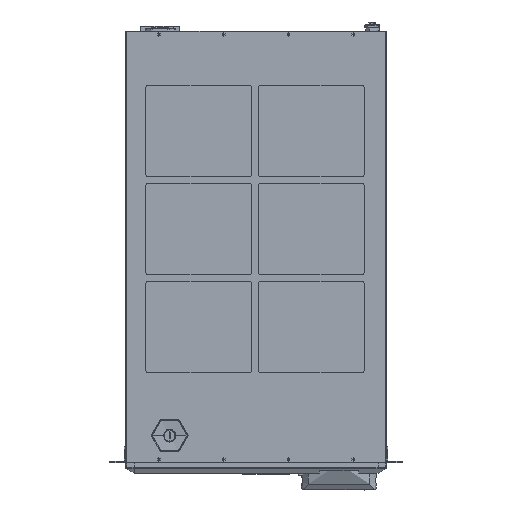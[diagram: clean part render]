
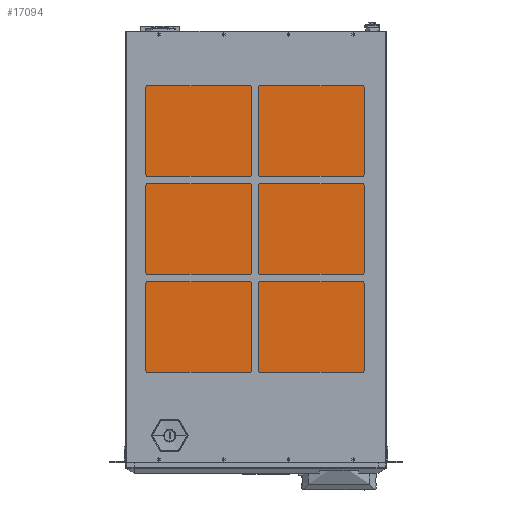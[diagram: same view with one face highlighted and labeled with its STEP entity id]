
A CAD part, top view. The second image highlights one B-rep face of the part: STEP entity #17094.
In plain terms, the highlighted free-form (B-spline) face has degree [1, 1] with [2, 2] control points.
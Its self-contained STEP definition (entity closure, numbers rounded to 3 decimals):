
#17094=ADVANCED_FACE('',(#21599),#158934,.T.);
#21599=FACE_OUTER_BOUND('',#26104,.T.);
#26104=EDGE_LOOP('',(#31851,#31852,#31853,#31854));
#31851=ORIENTED_EDGE('',*,*,#112155,.F.);
#31852=ORIENTED_EDGE('',*,*,#112152,.F.);
#31853=ORIENTED_EDGE('',*,*,#112149,.F.);
#31854=ORIENTED_EDGE('',*,*,#112145,.F.);
#54780=PCURVE('',#158930,#77725);
#54784=PCURVE('',#158931,#77729);
#54788=PCURVE('',#158932,#77733);
#54792=PCURVE('',#158933,#77737);
#54796=PCURVE('',#158934,#77741);
#54797=PCURVE('',#158934,#77742);
#54798=PCURVE('',#158934,#77743);
#54799=PCURVE('',#158934,#77744);
#77725=DEFINITIONAL_REPRESENTATION('',(#123621),#365691);
#77729=DEFINITIONAL_REPRESENTATION('',(#123629),#365691);
#77733=DEFINITIONAL_REPRESENTATION('',(#123636),#365691);
#77737=DEFINITIONAL_REPRESENTATION('',(#123643),#365691);
#77741=DEFINITIONAL_REPRESENTATION('',(#123648),#365691);
#77742=DEFINITIONAL_REPRESENTATION('',(#123649),#365691);
#77743=DEFINITIONAL_REPRESENTATION('',(#123650),#365691);
#77744=DEFINITIONAL_REPRESENTATION('',(#123651),#365691);
#100670=SURFACE_CURVE('',#123620,(#54780,#54799),.PCURVE_S1.);
#100674=SURFACE_CURVE('',#123628,(#54784,#54798),.PCURVE_S1.);
#100677=SURFACE_CURVE('',#123635,(#54788,#54797),.PCURVE_S1.);
#100680=SURFACE_CURVE('',#123642,(#54792,#54796),.PCURVE_S1.);
#112145=EDGE_CURVE('',#151583,#151584,#100670,.T.);
#112149=EDGE_CURVE('',#151584,#151587,#100674,.T.);
#112152=EDGE_CURVE('',#151587,#151589,#100677,.T.);
#112155=EDGE_CURVE('',#151589,#151583,#100680,.T.);
#123620=B_SPLINE_CURVE_WITH_KNOTS('',1,(#179236,#179237),.UNSPECIFIED.,
 .F.,.F.,(2,2),(0.,491.991),.UNSPECIFIED.);
#123621=B_SPLINE_CURVE_WITH_KNOTS('',1,(#179238,#179239),.UNSPECIFIED.,
 .F.,.F.,(2,2),(0.,491.991),.UNSPECIFIED.);
#123628=B_SPLINE_CURVE_WITH_KNOTS('',1,(#179252,#179253),.UNSPECIFIED.,
 .F.,.F.,(2,2),(491.991,873.292),.UNSPECIFIED.);
#123629=B_SPLINE_CURVE_WITH_KNOTS('',1,(#179254,#179255),.UNSPECIFIED.,
 .F.,.F.,(2,2),(491.991,873.292),.UNSPECIFIED.);
#123635=B_SPLINE_CURVE_WITH_KNOTS('',1,(#179266,#179267),.UNSPECIFIED.,
 .F.,.F.,(2,2),(873.292,1365.282),.UNSPECIFIED.);
#123636=B_SPLINE_CURVE_WITH_KNOTS('',1,(#179268,#179269),.UNSPECIFIED.,
 .F.,.F.,(2,2),(873.292,1365.282),.UNSPECIFIED.);
#123642=B_SPLINE_CURVE_WITH_KNOTS('',1,(#179280,#179281),.UNSPECIFIED.,
 .F.,.F.,(2,2),(1365.282,1746.583),.UNSPECIFIED.);
#123643=B_SPLINE_CURVE_WITH_KNOTS('',1,(#179282,#179283),.UNSPECIFIED.,
 .F.,.F.,(2,2),(1365.282,1746.583),.UNSPECIFIED.);
#123648=B_SPLINE_CURVE_WITH_KNOTS('',1,(#179292,#179293),.UNSPECIFIED.,
 .F.,.F.,(2,2),(1365.282,1746.583),.UNSPECIFIED.);
#123649=B_SPLINE_CURVE_WITH_KNOTS('',1,(#179294,#179295),.UNSPECIFIED.,
 .F.,.F.,(2,2),(873.292,1365.282),.UNSPECIFIED.);
#123650=B_SPLINE_CURVE_WITH_KNOTS('',1,(#179296,#179297),.UNSPECIFIED.,
 .F.,.F.,(2,2),(491.991,873.292),.UNSPECIFIED.);
#123651=B_SPLINE_CURVE_WITH_KNOTS('',1,(#179298,#179299),.UNSPECIFIED.,
 .F.,.F.,(2,2),(0.,491.991),.UNSPECIFIED.);
#151583=VERTEX_POINT('',#179228);
#151584=VERTEX_POINT('',#179229);
#151587=VERTEX_POINT('',#179232);
#151589=VERTEX_POINT('',#179234);
#158930=B_SPLINE_SURFACE_WITH_KNOTS('',1,1,((#179204,#179205),(#179206,
#179207)),.UNSPECIFIED.,.F.,.F.,.F.,(2,2),(2,2),(0.,491.991),(0.,
1.),.UNSPECIFIED.);
#158931=B_SPLINE_SURFACE_WITH_KNOTS('',1,1,((#179208,#179209),(#179210,
#179211)),.UNSPECIFIED.,.F.,.F.,.F.,(2,2),(2,2),(491.991,873.292),
(0.,1.),.UNSPECIFIED.);
#158932=B_SPLINE_SURFACE_WITH_KNOTS('',1,1,((#179212,#179213),(#179214,
#179215)),.UNSPECIFIED.,.F.,.F.,.F.,(2,2),(2,2),(873.292,1365.282),
(0.,1.),.UNSPECIFIED.);
#158933=B_SPLINE_SURFACE_WITH_KNOTS('',1,1,((#179216,#179217),(#179218,
#179219)),.UNSPECIFIED.,.F.,.F.,.F.,(2,2),(2,2),(1365.282,1746.583),
(0.,1.),.UNSPECIFIED.);
#158934=B_SPLINE_SURFACE_WITH_KNOTS('',1,1,((#179220,#179221),(#179222,
#179223)),.UNSPECIFIED.,.F.,.F.,.F.,(2,2),(2,2),(-491.991,0.),
(0.,381.301),.UNSPECIFIED.);
#179204=CARTESIAN_POINT('',(31303.729,-7603.911,-1.138));
#179205=CARTESIAN_POINT('',(31303.729,-7603.911,-2.138));
#179206=CARTESIAN_POINT('',(31303.729,-7111.92,-1.138));
#179207=CARTESIAN_POINT('',(31303.729,-7111.92,-2.138));
#179208=CARTESIAN_POINT('',(31303.729,-7111.92,-1.138));
#179209=CARTESIAN_POINT('',(31303.729,-7111.92,-2.138));
#179210=CARTESIAN_POINT('',(31685.03,-7111.92,-1.138));
#179211=CARTESIAN_POINT('',(31685.03,-7111.92,-2.138));
#179212=CARTESIAN_POINT('',(31685.03,-7111.92,-1.138));
#179213=CARTESIAN_POINT('',(31685.03,-7111.92,-2.138));
#179214=CARTESIAN_POINT('',(31685.03,-7603.911,-1.138));
#179215=CARTESIAN_POINT('',(31685.03,-7603.911,-2.138));
#179216=CARTESIAN_POINT('',(31685.03,-7603.911,-1.138));
#179217=CARTESIAN_POINT('',(31685.03,-7603.911,-2.138));
#179218=CARTESIAN_POINT('',(31303.729,-7603.911,-1.138));
#179219=CARTESIAN_POINT('',(31303.729,-7603.911,-2.138));
#179220=CARTESIAN_POINT('',(31303.729,-7111.92,-1.138));
#179221=CARTESIAN_POINT('',(31685.03,-7111.92,-1.138));
#179222=CARTESIAN_POINT('',(31303.729,-7603.911,-1.138));
#179223=CARTESIAN_POINT('',(31685.03,-7603.911,-1.138));
#179228=CARTESIAN_POINT('',(31303.729,-7603.911,-1.138));
#179229=CARTESIAN_POINT('',(31303.729,-7111.92,-1.138));
#179232=CARTESIAN_POINT('',(31685.03,-7111.92,-1.138));
#179234=CARTESIAN_POINT('',(31685.03,-7603.911,-1.138));
#179236=CARTESIAN_POINT('',(31303.729,-7603.911,-1.138));
#179237=CARTESIAN_POINT('',(31303.729,-7111.92,-1.138));
#179238=CARTESIAN_POINT('',(0.,0.));
#179239=CARTESIAN_POINT('',(491.991,0.));
#179252=CARTESIAN_POINT('',(31303.729,-7111.92,-1.138));
#179253=CARTESIAN_POINT('',(31685.03,-7111.92,-1.138));
#179254=CARTESIAN_POINT('',(491.991,0.));
#179255=CARTESIAN_POINT('',(873.292,0.));
#179266=CARTESIAN_POINT('',(31685.03,-7111.92,-1.138));
#179267=CARTESIAN_POINT('',(31685.03,-7603.911,-1.138));
#179268=CARTESIAN_POINT('',(873.292,0.));
#179269=CARTESIAN_POINT('',(1365.282,0.));
#179280=CARTESIAN_POINT('',(31685.03,-7603.911,-1.138));
#179281=CARTESIAN_POINT('',(31303.729,-7603.911,-1.138));
#179282=CARTESIAN_POINT('',(1365.282,0.));
#179283=CARTESIAN_POINT('',(1746.583,0.));
#179292=CARTESIAN_POINT('',(0.,381.301));
#179293=CARTESIAN_POINT('',(0.,0.));
#179294=CARTESIAN_POINT('',(-491.991,381.301));
#179295=CARTESIAN_POINT('',(0.,381.301));
#179296=CARTESIAN_POINT('',(-491.991,0.));
#179297=CARTESIAN_POINT('',(-491.991,381.301));
#179298=CARTESIAN_POINT('',(0.,0.));
#179299=CARTESIAN_POINT('',(-491.991,0.));
#365691=(
GEOMETRIC_REPRESENTATION_CONTEXT(2)
PARAMETRIC_REPRESENTATION_CONTEXT()
REPRESENTATION_CONTEXT('pspace','')
);
